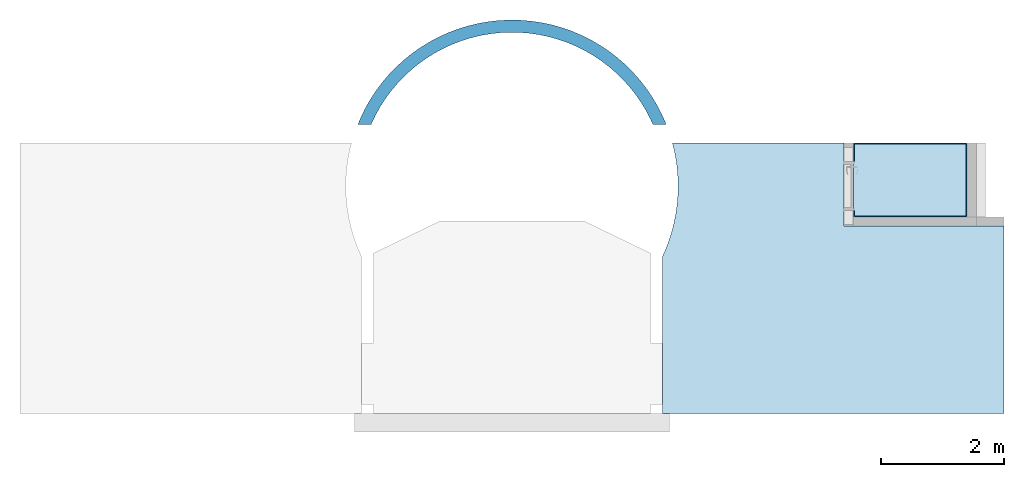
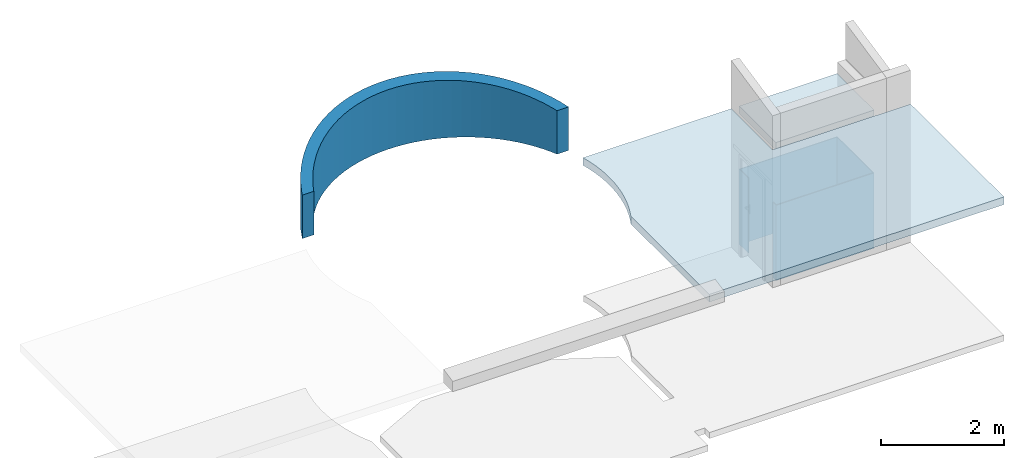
# One storey, part 3 of 5: 2 slabs, 1 wall.
"""IFC4 building model written with IfcOpenShell, lengths in millimetres."""

from ifc_helpers import new_model, entity, si_unit, converted_unit, derived_unit, direction, frame, origin_with_axes, place, context, subcontext, project, spatial, polygons, material, constituent, constituent_set, type_object, element, save


model = new_model("IFC4")

# Units and contexts
model_context = context("Model", 3, precision=0.01, world=origin_with_axes(), true_north=direction((0.0, 1.0)))
body_context = subcontext(model_context, "Body", "Model", "MODEL_VIEW")
ifc_project = project(units=[si_unit("LENGTHUNIT", "METRE", prefix="MILLI"), si_unit("AREAUNIT", "SQUARE_METRE"), si_unit("VOLUMEUNIT", "CUBIC_METRE"), converted_unit("PLANEANGLEUNIT", "DEGREE", entity("IfcPlaneAngleMeasure", 0.0174532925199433), si_unit("PLANEANGLEUNIT", "RADIAN"), dimensions=[0, 0, 0, 0, 0, 0, 0]), converted_unit("TIMEUNIT", "Year", entity("IfcTimeMeasure", 31557600.0), si_unit("TIMEUNIT", "SECOND"), dimensions=[0, 0, 1, 0, 0, 0, 0]), si_unit("MASSUNIT", "GRAM", prefix="KILO"), si_unit("THERMODYNAMICTEMPERATUREUNIT", "DEGREE_CELSIUS"), si_unit("LUMINOUSINTENSITYUNIT", "LUMEN"), si_unit("ENERGYUNIT", "JOULE", prefix="MEGA"), derived_unit("THERMALCONDUCTANCEUNIT", [(si_unit("POWERUNIT", "WATT"), 1), (si_unit("LENGTHUNIT", "METRE"), -1), (si_unit("THERMODYNAMICTEMPERATUREUNIT", "KELVIN"), -1)]), derived_unit("SPECIFICHEATCAPACITYUNIT", [(si_unit("ENERGYUNIT", "JOULE"), 1), (si_unit("MASSUNIT", "GRAM", prefix="KILO"), -1), (si_unit("THERMODYNAMICTEMPERATUREUNIT", "KELVIN"), -1)]), derived_unit("MASSDENSITYUNIT", [(si_unit("MASSUNIT", "GRAM", prefix="KILO"), 1), (si_unit("VOLUMEUNIT", "CUBIC_METRE"), -1)])], contexts=[model_context])

# Site, building, storey
site_placement = place(None, origin_with_axes())
site = spatial("IfcSite", under=ifc_project, at=site_placement, Name="Exteriér", CompositionType="ELEMENT")
building_placement = place(site_placement, origin_with_axes())
building = spatial("IfcBuilding", under=site, at=building_placement, Name="Univerzitní lezecké centrum", CompositionType="ELEMENT")
storey_placement = place(building_placement, frame((0.0, 0.0, 9600.000000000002), z_axis=(0.0, 0.0, 1.0), x_axis=(1.0, 0.0, 0.0)))
storey = spatial("IfcBuildingStorey", under=building, at=storey_placement, Name="4.NP", CompositionType="ELEMENT", Elevation=9600.0)

# Slabs
ifc_material_1 = material(Name="Keramická dlažba 20x40 - obklad")
slab_type_1 = type_object("IfcSlabType", Name="Keramická dlažba 20x40 - obklad 1500", PredefinedType="FLOOR")
slab_1_placement = place(storey_placement, frame((9849.851648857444, 4400.000011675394, 1500.0), z_axis=(0.0, 0.0, 1.0), x_axis=(1.0, 0.0, 0.0)))
element("IfcSlab", 1, at=slab_1_placement, inside=storey, type_object=slab_type_1, material=ifc_material_1, PredefinedType="FLOOR", context=body_context, shape_type="Tessellation", body=[
    polygons([(0.0, 0.0, 0.0), (0.0, 0.0, -1500.0), (-1849.739473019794, 0.0, -1500.0), (-1849.739473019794, 0.0, 0.0), (0.0, -1200.000011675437, 0.0), (0.0, -1200.000011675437, -1500.0), (-1849.739473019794, -1200.000011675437, -1500.0), (-1849.739473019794, -1100.000017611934, -1500.0), (-1834.739472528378, -1100.000017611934, -1500.0), (-1834.739472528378, -1185.000011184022, -1500.0), (-15.00000049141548, -1185.000011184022, -1500.0), (-15.00000049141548, -15.00000049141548, -1500.0), (-1834.739472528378, -15.00000049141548, -1500.0), (-1834.739472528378, -300.0000098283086, -1500.0), (-1849.739473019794, -300.0000098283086, -1500.0), (-1849.739473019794, -300.0000098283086, 0.0), (-1834.739472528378, -300.0000098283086, 0.0), (-1834.739472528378, -15.00000049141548, 0.0), (-15.00000049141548, -15.00000049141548, 0.0), (-15.00000049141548, -1185.000011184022, 0.0), (-1834.739472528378, -1185.000011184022, 0.0), (-1834.739472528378, -1100.000017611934, 0.0), (-1849.739473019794, -1100.000017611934, 0.0), (-1849.739473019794, -1200.000011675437, 0.0)], [[[1, 2, 3, 4]], [[5, 6, 2, 1]], [[3, 2, 6, 7, 8, 9, 10, 11, 12, 13, 14, 15]], [[4, 3, 15, 16]], [[5, 1, 4, 16, 17, 18, 19, 20, 21, 22, 23, 24]], [[24, 7, 6, 5]], [[23, 8, 7, 24]], [[22, 9, 8, 23]], [[21, 10, 9, 22]], [[20, 11, 10, 21]], [[19, 12, 11, 20]], [[18, 13, 12, 19]], [[17, 14, 13, 18]], [[16, 15, 14, 17]]], closed=True),
])
ifc_material_2 = material(Name="SDK - UA profil nosný 50")
ifc_constituent_1 = constituent(ifc_material_2, Name="SDK - UA profil nosný 50")
ifc_material_3 = material(Name="SDK - R-CD profil montážní")
ifc_constituent_2 = constituent(ifc_material_3, Name="SDK - R-CD profil montážní")
ifc_material_4 = material(Name="Sádrokarton - protipožární spodní")
ifc_constituent_3 = constituent(ifc_material_4, Name="Sádrokarton - protipožární spodní")
ifc_material_5 = material(Name="Sádrokarton - protipožární vrchní")
ifc_constituent_4 = constituent(ifc_material_5, Name="Sádrokarton - protipožární vrchní")
ifc_constituent_set_1 = constituent_set(constituents=[ifc_constituent_1, ifc_constituent_2, ifc_constituent_3, ifc_constituent_4], Name="!SDK - protipožární")
slab_type_2 = type_object("IfcSlabType", Name="!SDK - protipožární 152", PredefinedType="FLOOR")
slab_2_placement = place(storey_placement, frame((4899.98496212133, 0.0, 2752.0), z_axis=(0.0, 0.0, 1.0), x_axis=(1.0, 0.0, 0.0)))
element("IfcSlab", 2, at=slab_2_placement, inside=storey, type_object=slab_type_2, material=ifc_constituent_set_1, Name="Pdh02", PredefinedType="FLOOR", context=body_context, shape_type="Tessellation", body=[
    polygons([(4949.866686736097, 3049.999999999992, -99.99999999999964), (4949.866686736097, 3049.999999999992, 0.0), (5549.866686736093, 3049.999999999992, 0.0), (5549.866686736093, 3049.999999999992, -99.99999999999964), (3100.127204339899, 3049.999999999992, 0.0), (3100.127204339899, 3049.999999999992, -99.99999999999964), (2950.127204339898, 3049.999999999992, 0.0), (2950.127204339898, 4399.999999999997, 0.0), (157.8293132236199, 4399.999999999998, 0.0), (193.8026899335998, 4254.867432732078, 0.0), (222.7123290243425, 4092.667690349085, 0.0), (241.679854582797, 3929.007198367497, 0.0), (250.6347061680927, 3764.49478456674, 0.0), (249.5435711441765, 3599.742445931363, 0.0), (238.4105086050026, 3435.363071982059, 0.0), (217.2769342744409, 3271.968164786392, 0.0), (186.2214664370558, 3110.165564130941, 0.0), (145.3596334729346, 2950.557186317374, 0.0), (94.84344408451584, 2793.736784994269, 0.0), (34.86082181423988, 2640.287742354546, 0.0), (0.2478638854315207, 2565.534320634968, 0.0), (0.0, 0.0, 0.0), (5549.866686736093, 0.0, 0.0), (5549.866686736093, 0.0, -99.99999999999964), (0.0, 0.0, -99.99999999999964), (0.2478638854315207, 2565.534320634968, -99.99999999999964), (34.86082181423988, 2640.287742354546, -99.99999999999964), (94.84344408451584, 2793.736784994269, -99.99999999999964), (145.3596334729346, 2950.557186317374, -99.99999999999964), (186.2214664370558, 3110.165564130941, -99.99999999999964), (217.2769342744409, 3271.968164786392, -99.99999999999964), (238.4105086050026, 3435.363071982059, -99.99999999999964), (249.5435711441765, 3599.742445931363, -99.99999999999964), (250.6347061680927, 3764.49478456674, -99.99999999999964), (241.679854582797, 3929.007198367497, -99.99999999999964), (222.7123290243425, 4092.667690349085, -99.99999999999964), (193.8026899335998, 4254.867432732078, -99.99999999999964), (157.8293132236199, 4399.999999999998, -99.99999999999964), (2950.127204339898, 4399.999999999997, -99.99999999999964), (2950.127204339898, 3049.999999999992, -99.99999999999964)], [[[1, 2, 3, 4]], [[5, 2, 1, 6]], [[2, 5, 7, 8, 9, 10, 11, 12, 13, 14, 15, 16, 17, 18, 19, 20, 21, 22, 23, 3]], [[24, 4, 3, 23]], [[6, 1, 4, 24, 25, 26, 27, 28, 29, 30, 31, 32, 33, 34, 35, 36, 37, 38, 39, 40]], [[5, 6, 40, 7]], [[39, 8, 7, 40]], [[8, 39, 38, 9]], [[38, 37, 10, 9]], [[37, 36, 11, 10]], [[36, 35, 12, 11]], [[35, 34, 13, 12]], [[34, 33, 14, 13]], [[33, 32, 15, 14]], [[32, 31, 16, 15]], [[31, 30, 17, 16]], [[30, 29, 18, 17]], [[29, 28, 19, 18]], [[28, 27, 20, 19]], [[27, 26, 21, 20]], [[26, 25, 22, 21]], [[25, 24, 23, 22]]], closed=True),
    polygons([(3100.127204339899, 3199.999999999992, 0.0), (4949.866686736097, 3199.999999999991, 0.0), (4949.866686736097, 4399.999999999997, 0.0), (3100.127204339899, 4399.999999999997, 0.0), (4949.866686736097, 3199.999999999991, -99.99999999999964), (3100.127204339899, 3199.999999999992, -99.99999999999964), (4949.866686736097, 4399.999999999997, -99.99999999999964), (3100.127204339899, 4399.999999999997, -99.99999999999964)], [[[1, 2, 3, 4]], [[5, 2, 1, 6]], [[2, 5, 7, 3]], [[8, 4, 3, 7]], [[6, 1, 4, 8]], [[5, 6, 8, 7]]], closed=True),
    polygons([(4949.866686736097, 3049.999999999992, -126.9999999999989), (4949.866686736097, 3049.999999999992, -99.99999999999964), (5549.866686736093, 3049.999999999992, -99.99999999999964), (5549.866686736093, 3049.999999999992, -126.9999999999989), (3100.127204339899, 3049.999999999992, -99.99999999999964), (3100.127204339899, 3049.999999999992, -126.9999999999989), (2950.127204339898, 3049.999999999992, -99.99999999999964), (2950.127204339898, 4399.999999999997, -99.99999999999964), (157.8293132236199, 4399.999999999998, -99.99999999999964), (193.8026899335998, 4254.867432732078, -99.99999999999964), (222.7123290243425, 4092.667690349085, -99.99999999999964), (241.679854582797, 3929.007198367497, -99.99999999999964), (250.6347061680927, 3764.49478456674, -99.99999999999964), (249.5435711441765, 3599.742445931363, -99.99999999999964), (238.4105086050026, 3435.363071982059, -99.99999999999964), (217.2769342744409, 3271.968164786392, -99.99999999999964), (186.2214664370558, 3110.165564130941, -99.99999999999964), (145.3596334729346, 2950.557186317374, -99.99999999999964), (94.84344408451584, 2793.736784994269, -99.99999999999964), (34.86082181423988, 2640.287742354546, -99.99999999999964), (0.2478638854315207, 2565.534320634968, -99.99999999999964), (0.0, 0.0, -99.99999999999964), (5549.866686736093, 0.0, -99.99999999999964), (5549.866686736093, 0.0, -126.9999999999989), (0.0, 0.0, -126.9999999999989), (0.2478638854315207, 2565.534320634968, -126.9999999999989), (34.86082181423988, 2640.287742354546, -126.9999999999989), (94.84344408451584, 2793.736784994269, -126.9999999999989), (145.3596334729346, 2950.557186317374, -126.9999999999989), (186.2214664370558, 3110.165564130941, -126.9999999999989), (217.2769342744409, 3271.968164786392, -126.9999999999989), (238.4105086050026, 3435.363071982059, -126.9999999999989), (249.5435711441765, 3599.742445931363, -126.9999999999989), (250.6347061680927, 3764.49478456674, -126.9999999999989), (241.679854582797, 3929.007198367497, -126.9999999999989), (222.7123290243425, 4092.667690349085, -126.9999999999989), (193.8026899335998, 4254.867432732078, -126.9999999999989), (157.8293132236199, 4399.999999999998, -126.9999999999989), (2950.127204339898, 4399.999999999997, -126.9999999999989), (2950.127204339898, 3049.999999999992, -126.9999999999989)], [[[1, 2, 3, 4]], [[5, 2, 1, 6]], [[2, 5, 7, 8, 9, 10, 11, 12, 13, 14, 15, 16, 17, 18, 19, 20, 21, 22, 23, 3]], [[24, 4, 3, 23]], [[6, 1, 4, 24, 25, 26, 27, 28, 29, 30, 31, 32, 33, 34, 35, 36, 37, 38, 39, 40]], [[5, 6, 40, 7]], [[39, 8, 7, 40]], [[8, 39, 38, 9]], [[38, 37, 10, 9]], [[37, 36, 11, 10]], [[36, 35, 12, 11]], [[35, 34, 13, 12]], [[34, 33, 14, 13]], [[33, 32, 15, 14]], [[32, 31, 16, 15]], [[31, 30, 17, 16]], [[30, 29, 18, 17]], [[29, 28, 19, 18]], [[28, 27, 20, 19]], [[27, 26, 21, 20]], [[26, 25, 22, 21]], [[25, 24, 23, 22]]], closed=True),
    polygons([(3100.127204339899, 3199.999999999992, -99.99999999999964), (4949.866686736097, 3199.999999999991, -99.99999999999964), (4949.866686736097, 4399.999999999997, -99.99999999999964), (3100.127204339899, 4399.999999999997, -99.99999999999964), (4949.866686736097, 3199.999999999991, -126.9999999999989), (3100.127204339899, 3199.999999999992, -126.9999999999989), (4949.866686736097, 4399.999999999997, -126.9999999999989), (3100.127204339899, 4399.999999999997, -126.9999999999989)], [[[1, 2, 3, 4]], [[5, 2, 1, 6]], [[2, 5, 7, 3]], [[8, 4, 3, 7]], [[6, 1, 4, 8]], [[5, 6, 8, 7]]], closed=True),
    polygons([(4949.866686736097, 3049.999999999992, -139.0000000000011), (4949.866686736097, 3049.999999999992, -127.0000000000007), (5549.866686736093, 3049.999999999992, -127.0000000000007), (5549.866686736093, 3049.999999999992, -139.0000000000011), (3100.127204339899, 3049.999999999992, -127.0000000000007), (3100.127204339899, 3049.999999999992, -139.0000000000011), (2950.127204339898, 3049.999999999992, -127.0000000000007), (2950.127204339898, 4399.999999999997, -127.0000000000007), (157.8293132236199, 4399.999999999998, -127.0000000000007), (193.8026899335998, 4254.867432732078, -127.0000000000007), (222.7123290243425, 4092.667690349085, -127.0000000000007), (241.679854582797, 3929.007198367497, -127.0000000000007), (250.6347061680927, 3764.49478456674, -127.0000000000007), (249.5435711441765, 3599.742445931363, -127.0000000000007), (238.4105086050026, 3435.363071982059, -127.0000000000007), (217.2769342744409, 3271.968164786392, -127.0000000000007), (186.2214664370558, 3110.165564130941, -127.0000000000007), (145.3596334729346, 2950.557186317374, -127.0000000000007), (94.84344408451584, 2793.736784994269, -127.0000000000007), (34.86082181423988, 2640.287742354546, -127.0000000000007), (0.2478638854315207, 2565.534320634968, -127.0000000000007), (0.0, 0.0, -127.0000000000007), (5549.866686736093, 0.0, -127.0000000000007), (5549.866686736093, 0.0, -139.0000000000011), (0.0, 0.0, -139.0000000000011), (0.2478638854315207, 2565.534320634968, -139.0000000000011), (34.86082181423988, 2640.287742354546, -139.0000000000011), (94.84344408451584, 2793.736784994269, -139.0000000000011), (145.3596334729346, 2950.557186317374, -139.0000000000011), (186.2214664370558, 3110.165564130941, -139.0000000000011), (217.2769342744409, 3271.968164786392, -139.0000000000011), (238.4105086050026, 3435.363071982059, -139.0000000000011), (249.5435711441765, 3599.742445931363, -139.0000000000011), (250.6347061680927, 3764.49478456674, -139.0000000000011), (241.679854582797, 3929.007198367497, -139.0000000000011), (222.7123290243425, 4092.667690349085, -139.0000000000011), (193.8026899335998, 4254.867432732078, -139.0000000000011), (157.8293132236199, 4399.999999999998, -139.0000000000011), (2950.127204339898, 4399.999999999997, -139.0000000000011), (2950.127204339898, 3049.999999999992, -139.0000000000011)], [[[1, 2, 3, 4]], [[5, 2, 1, 6]], [[2, 5, 7, 8, 9, 10, 11, 12, 13, 14, 15, 16, 17, 18, 19, 20, 21, 22, 23, 3]], [[24, 4, 3, 23]], [[6, 1, 4, 24, 25, 26, 27, 28, 29, 30, 31, 32, 33, 34, 35, 36, 37, 38, 39, 40]], [[5, 6, 40, 7]], [[39, 8, 7, 40]], [[8, 39, 38, 9]], [[38, 37, 10, 9]], [[37, 36, 11, 10]], [[36, 35, 12, 11]], [[35, 34, 13, 12]], [[34, 33, 14, 13]], [[33, 32, 15, 14]], [[32, 31, 16, 15]], [[31, 30, 17, 16]], [[30, 29, 18, 17]], [[29, 28, 19, 18]], [[28, 27, 20, 19]], [[27, 26, 21, 20]], [[26, 25, 22, 21]], [[25, 24, 23, 22]]], closed=True),
    polygons([(3100.127204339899, 3199.999999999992, -127.0000000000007), (4949.866686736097, 3199.999999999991, -127.0000000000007), (4949.866686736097, 4399.999999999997, -127.0000000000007), (3100.127204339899, 4399.999999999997, -127.0000000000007), (4949.866686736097, 3199.999999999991, -139.0000000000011), (3100.127204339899, 3199.999999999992, -139.0000000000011), (4949.866686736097, 4399.999999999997, -139.0000000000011), (3100.127204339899, 4399.999999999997, -139.0000000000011)], [[[1, 2, 3, 4]], [[5, 2, 1, 6]], [[2, 5, 7, 3]], [[8, 4, 3, 7]], [[6, 1, 4, 8]], [[5, 6, 8, 7]]], closed=True),
    polygons([(4949.866686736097, 3049.999999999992, -151.9999999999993), (4949.866686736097, 3049.999999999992, -138.9999999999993), (5549.866686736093, 3049.999999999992, -138.9999999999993), (5549.866686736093, 3049.999999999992, -151.9999999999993), (3100.127204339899, 3049.999999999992, -138.9999999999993), (3100.127204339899, 3049.999999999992, -151.9999999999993), (2950.127204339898, 3049.999999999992, -138.9999999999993), (2950.127204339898, 4399.999999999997, -138.9999999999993), (157.8293132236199, 4399.999999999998, -138.9999999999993), (193.8026899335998, 4254.867432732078, -138.9999999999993), (222.7123290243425, 4092.667690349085, -138.9999999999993), (241.679854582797, 3929.007198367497, -138.9999999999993), (250.6347061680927, 3764.49478456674, -138.9999999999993), (249.5435711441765, 3599.742445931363, -138.9999999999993), (238.4105086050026, 3435.363071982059, -138.9999999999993), (217.2769342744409, 3271.968164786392, -138.9999999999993), (186.2214664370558, 3110.165564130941, -138.9999999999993), (145.3596334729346, 2950.557186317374, -138.9999999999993), (94.84344408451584, 2793.736784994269, -138.9999999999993), (34.86082181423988, 2640.287742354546, -138.9999999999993), (0.2478638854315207, 2565.534320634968, -138.9999999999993), (0.0, 0.0, -138.9999999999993), (5549.866686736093, 0.0, -138.9999999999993), (5549.866686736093, 0.0, -151.9999999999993), (0.0, 0.0, -151.9999999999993), (0.2478638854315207, 2565.534320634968, -151.9999999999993), (34.86082181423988, 2640.287742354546, -151.9999999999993), (94.84344408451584, 2793.736784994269, -151.9999999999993), (145.3596334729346, 2950.557186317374, -151.9999999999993), (186.2214664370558, 3110.165564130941, -151.9999999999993), (217.2769342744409, 3271.968164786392, -151.9999999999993), (238.4105086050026, 3435.363071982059, -151.9999999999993), (249.5435711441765, 3599.742445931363, -151.9999999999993), (250.6347061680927, 3764.49478456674, -151.9999999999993), (241.679854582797, 3929.007198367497, -151.9999999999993), (222.7123290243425, 4092.667690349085, -151.9999999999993), (193.8026899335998, 4254.867432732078, -151.9999999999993), (157.8293132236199, 4399.999999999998, -151.9999999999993), (2950.127204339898, 4399.999999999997, -151.9999999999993), (2950.127204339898, 3049.999999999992, -151.9999999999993)], [[[1, 2, 3, 4]], [[5, 2, 1, 6]], [[2, 5, 7, 8, 9, 10, 11, 12, 13, 14, 15, 16, 17, 18, 19, 20, 21, 22, 23, 3]], [[23, 24, 4, 3]], [[6, 1, 4, 24, 25, 26, 27, 28, 29, 30, 31, 32, 33, 34, 35, 36, 37, 38, 39, 40]], [[5, 6, 40, 7]], [[39, 8, 7, 40]], [[8, 39, 38, 9]], [[9, 38, 37, 10]], [[10, 37, 36, 11]], [[11, 36, 35, 12]], [[12, 35, 34, 13]], [[13, 34, 33, 14]], [[14, 33, 32, 15]], [[15, 32, 31, 16]], [[16, 31, 30, 17]], [[17, 30, 29, 18]], [[18, 29, 28, 19]], [[19, 28, 27, 20]], [[20, 27, 26, 21]], [[21, 26, 25, 22]], [[22, 25, 24, 23]]], closed=True),
    polygons([(3100.127204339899, 3199.999999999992, -138.9999999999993), (4949.866686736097, 3199.999999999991, -138.9999999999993), (4949.866686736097, 4399.999999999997, -138.9999999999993), (3100.127204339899, 4399.999999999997, -138.9999999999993), (4949.866686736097, 3199.999999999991, -151.9999999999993), (3100.127204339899, 3199.999999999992, -151.9999999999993), (4949.866686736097, 4399.999999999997, -151.9999999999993), (3100.127204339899, 4399.999999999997, -151.9999999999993)], [[[1, 2, 3, 4]], [[5, 2, 1, 6]], [[2, 5, 7, 3]], [[8, 4, 3, 7]], [[6, 1, 4, 8]], [[5, 6, 8, 7]]], closed=True),
])

# Wall
ifc_material_6 = material(Name="Pórobetonové tvárnice - nenosné")
ifc_constituent_5 = constituent(ifc_material_6, Name="Pórobetonové tvárnice - nenosné")
ifc_constituent_set_2 = constituent_set(constituents=[ifc_constituent_5], Name="!Vnitřní pŕobetonová stěna 200 mm - nenosná")
wall_type = type_object("IfcWallType", Name="!Vnitřní pŕobetonová stěna 200 mm - nenosná 200", PredefinedType="NOTDEFINED")
wall_placement = place(storey_placement, frame((4741.13984060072, 4699.999999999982, 2750.0), z_axis=(0.0, 0.0, 1.0), x_axis=(-0.4000000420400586, 0.9165151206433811, 0.0)))
element("IfcWall", 3, at=wall_placement, inside=storey, type_object=wall_type, material=ifc_constituent_set_2, Name="St09", PredefinedType="NOTDEFINED", context=body_context, shape_type="Tessellation", body=[
    polygons([(-85.70857592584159, -199.9999999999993, 866.9786910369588), (-87.24456409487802, -199.9023850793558, 866.6711637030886), (-87.24456435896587, -199.9023850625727, 0.0), (-85.70857592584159, -199.9999999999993, 0.0), (0.0, -6.457208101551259e-07, 866.6711637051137), (0.0, -199.9999999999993, 883.6756903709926), (85.70857592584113, -199.9999999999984, 900.3726897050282), (256.7806095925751, -189.1280523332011, 932.775093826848), (426.8186783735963, -167.4279344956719, 964.0554303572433), (595.1380989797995, -134.9870252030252, 994.0877444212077), (761.0611085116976, -91.93595254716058, 1022.751106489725), (923.9195935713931, -38.44806800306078, 1049.930099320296), (1083.057780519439, 25.261251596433, 1075.515282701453), (1237.834876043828, 98.93547130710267, 1099.403634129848), (1387.627647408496, 182.277931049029, 1121.498963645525), (1531.832931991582, 274.9530401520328, 1141.712301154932), (1669.870066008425, 376.5876286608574, 1159.962254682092), (1801.183222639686, 486.7724499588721, 1176.17533810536), (1925.243650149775, 605.0638286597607, 1190.286267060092), (2041.551800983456, 730.985447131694, 1202.238221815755), (2149.639343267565, 864.0302634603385, 1211.983076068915), (2249.071046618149, 1003.662553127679, 1219.481590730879), (2339.446534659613, 1149.320066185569, 1224.703571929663), (2420.401897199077, 1300.416291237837, 1227.627992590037), (2491.611155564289, 1456.342817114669, 1228.243077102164), (2552.787575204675, 1616.471782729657, 1226.5463487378), (2603.684820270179, 1780.158405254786, 1222.544639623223), (2644.097945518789, 1946.743576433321, 1216.254063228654), (2673.864221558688, 2115.556516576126, 1207.699949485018), (2692.863790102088, 2285.917475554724, 1196.916742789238), (2701.020146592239, 2457.140469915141, 1183.947863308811), (2698.300448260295, 2628.536045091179, 1168.845532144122), (2684.715646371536, 2799.414051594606, 1151.670561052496), (2660.320442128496, 2969.08642400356, 1132.49210758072), (2625.213066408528, 3136.869951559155, 1111.38739659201), (2579.534884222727, 3302.089029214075, 1088.441409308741), (2523.469825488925, 3464.07837805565, 1063.746541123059), (2457.24364441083, 3622.185724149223, 1037.402229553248), (2381.123010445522, 3775.774425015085, 1009.514553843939), (2295.414434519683, 3924.226033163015, 980.1958078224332), (2200.463034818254, 4066.942786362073, 949.564047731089), (2096.651147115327, 4203.35001461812, 917.7426168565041), (1979.672980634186, 4336.000074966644, 883.6756903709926), (1919.467881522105, 4398.05287965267, 866.6711637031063), (1833.030546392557, 4200.000088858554, 866.6711637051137), (1941.343663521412, 4077.175957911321, 898.2146142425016), (2037.465782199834, 3950.872968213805, 927.6789022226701), (2125.383745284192, 3818.727825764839, 956.0416431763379), (2204.743538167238, 3681.272632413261, 983.1886303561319), (2275.22560697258, 3539.060871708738, 1009.010552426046), (2336.546145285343, 3392.665180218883, 1033.403433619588), (2388.458236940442, 3242.675041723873, 1056.269052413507), (2430.752850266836, 3089.694413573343, 1077.515337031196), (2463.259679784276, 2934.339294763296, 1097.056736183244), (2485.847831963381, 2777.235245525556, 1114.814563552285), (2498.426352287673, 2619.014868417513, 1130.717314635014), (2500.944591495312, 2460.315261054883, 1144.700954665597), (2493.392409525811, 2301.775450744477, 1156.709176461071), (2475.800216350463, 2144.033821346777, 1166.693627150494), (2448.238849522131, 1987.725542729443, 1174.614102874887), (2410.81928893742, 1833.480013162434, 1180.438710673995), (2363.692209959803, 1681.918324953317, 1184.143996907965), (2307.047376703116, 1533.650763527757, 1185.715041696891), (2241.112877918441, 1389.274350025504, 1185.145518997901), (2166.154208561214, 1249.370437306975, 1182.437722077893), (2082.473200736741, 1114.502369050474, 1177.60255427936), (1990.40680832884, 985.2132113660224, 1170.659485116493), (1890.325750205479, 862.0235660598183, 1161.636471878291), (1782.633017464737, 745.4294743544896, 1150.569847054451), (1667.762250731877, 635.9004195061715, 1137.504172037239), (1546.175994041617, 533.8774363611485, 1122.492057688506), (1418.363832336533, 439.7713354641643, 1105.593952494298), (1284.840420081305, 353.9610488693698, 1086.87789916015), (1146.14340893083, 276.7921043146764, 1066.41926062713), (1002.831282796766, 208.5752339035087, 1044.300416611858), (855.4811090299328, 149.5851228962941, 1020.610431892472), (704.6862147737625, 100.0593036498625, 995.4446976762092), (551.0537978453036, 60.19719915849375, 968.9045474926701), (395.202481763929, 30.15932004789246, 941.0968491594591), (237.7598247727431, 10.06661825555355, 912.133574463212), (79.35979288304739, 0.0, 882.1313482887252), (0.0, 0.0, 0.0), (-85.58475170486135, -196.0992769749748, 0.0), (0.0, -199.9999999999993, 0.0), (85.70857592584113, -199.9999999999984, 0.0), (256.7806095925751, -189.1280523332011, 0.0), (426.8186783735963, -167.4279344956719, 0.0), (595.1380989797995, -134.9870252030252, 0.0), (761.0611085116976, -91.93595254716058, 0.0), (923.9195935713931, -38.44806800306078, 0.0), (1083.057780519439, 25.261251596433, 0.0), (1237.834876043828, 98.93547130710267, 0.0), (1387.627647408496, 182.277931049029, 0.0), (1531.832931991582, 274.9530401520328, 0.0), (1669.870066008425, 376.5876286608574, 0.0), (1801.183222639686, 486.7724499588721, 0.0), (1925.243650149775, 605.0638286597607, 0.0), (2041.551800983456, 730.985447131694, 0.0), (2149.639343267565, 864.0302634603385, 0.0), (2249.071046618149, 1003.662553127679, 0.0), (2339.446534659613, 1149.320066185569, 0.0), (2420.401897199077, 1300.416291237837, 0.0), (2491.611155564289, 1456.342817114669, 0.0), (2552.787575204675, 1616.471782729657, 0.0), (2603.684820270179, 1780.158405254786, 0.0), (2644.097945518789, 1946.743576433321, 0.0), (2673.864221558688, 2115.556516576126, 0.0), (2692.863790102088, 2285.917475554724, 0.0), (2701.020146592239, 2457.140469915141, 0.0), (2698.300448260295, 2628.536045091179, 0.0), (2684.715646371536, 2799.414051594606, 0.0), (2660.320442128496, 2969.08642400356, 0.0), (2625.213066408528, 3136.869951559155, 0.0), (2579.534884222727, 3302.089029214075, 0.0), (2523.469825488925, 3464.07837805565, 0.0), (2457.24364441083, 3622.185724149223, 0.0), (2381.123010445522, 3775.774425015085, 0.0), (2295.414434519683, 3924.226033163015, 0.0), (2200.463034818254, 4066.942786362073, 0.0), (2096.651147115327, 4203.35001461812, 0.0), (1979.672980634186, 4336.000074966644, 0.0), (1919.467881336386, 4398.052879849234, 0.0), (1833.030545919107, 4200.000088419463, 0.0), (1941.343663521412, 4077.175957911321, 0.0), (2037.465782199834, 3950.872968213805, 0.0), (2125.383745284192, 3818.727825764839, 0.0), (2204.743538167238, 3681.272632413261, 0.0), (2275.22560697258, 3539.060871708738, 0.0), (2336.546145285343, 3392.665180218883, 0.0), (2388.458236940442, 3242.675041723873, 0.0), (2430.752850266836, 3089.694413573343, 0.0), (2463.259679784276, 2934.339294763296, 0.0), (2485.847831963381, 2777.235245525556, 0.0), (2498.426352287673, 2619.014868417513, 0.0), (2500.944591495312, 2460.315261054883, 0.0), (2493.392409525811, 2301.775450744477, 0.0), (2475.800216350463, 2144.033821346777, 0.0), (2448.238849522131, 1987.725542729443, 0.0), (2410.81928893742, 1833.480013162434, 0.0), (2363.692209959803, 1681.918324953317, 0.0), (2307.047376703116, 1533.650763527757, 0.0), (2241.112877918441, 1389.274350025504, 0.0), (2166.154208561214, 1249.370437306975, 0.0), (2082.473200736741, 1114.502369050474, 0.0), (1990.40680832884, 985.2132113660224, 0.0), (1890.325750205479, 862.0235660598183, 0.0), (1782.633017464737, 745.4294743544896, 0.0), (1667.762250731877, 635.9004195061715, 0.0), (1546.175994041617, 533.8774363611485, 0.0), (1418.363832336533, 439.7713354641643, 0.0), (1284.840420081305, 353.9610488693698, 0.0), (1146.14340893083, 276.7921043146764, 0.0), (1002.831282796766, 208.5752339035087, 0.0), (855.4811090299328, 149.5851228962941, 0.0), (704.6862147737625, 100.0593036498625, 0.0), (551.0537978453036, 60.19719915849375, 0.0), (395.202481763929, 30.15932004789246, 0.0), (237.7598247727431, 10.06661825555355, 0.0), (79.35979288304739, 0.0, 0.0)], [[[1, 2, 3, 4]], [[5, 2, 1, 6, 7, 8, 9, 10, 11, 12, 13, 14, 15, 16, 17, 18, 19, 20, 21, 22, 23, 24, 25, 26, 27, 28, 29, 30, 31, 32, 33, 34, 35, 36, 37, 38, 39, 40, 41, 42, 43, 44, 45, 46, 47, 48, 49, 50, 51, 52, 53, 54, 55, 56, 57, 58, 59, 60, 61, 62, 63, 64, 65, 66, 67, 68, 69, 70, 71, 72, 73, 74, 75, 76, 77, 78, 79, 80, 81]], [[2, 5, 82, 83, 3]], [[83, 4, 3]], [[6, 1, 4, 84]], [[7, 6, 84, 85]], [[8, 7, 85, 86]], [[9, 8, 86, 87]], [[10, 9, 87, 88]], [[11, 10, 88, 89]], [[12, 11, 89, 90]], [[13, 12, 90, 91]], [[14, 13, 91, 92]], [[15, 14, 92, 93]], [[16, 15, 93, 94]], [[17, 16, 94, 95]], [[18, 17, 95, 96]], [[19, 18, 96, 97]], [[20, 19, 97, 98]], [[21, 20, 98, 99]], [[22, 21, 99, 100]], [[23, 22, 100, 101]], [[24, 23, 101, 102]], [[25, 24, 102, 103]], [[26, 25, 103, 104]], [[27, 26, 104, 105]], [[28, 27, 105, 106]], [[29, 28, 106, 107]], [[30, 29, 107, 108]], [[31, 30, 108, 109]], [[32, 31, 109, 110]], [[33, 32, 110, 111]], [[34, 33, 111, 112]], [[35, 34, 112, 113]], [[36, 35, 113, 114]], [[37, 36, 114, 115]], [[38, 37, 115, 116]], [[39, 38, 116, 117]], [[40, 39, 117, 118]], [[41, 40, 118, 119]], [[42, 41, 119, 120]], [[43, 42, 120, 121]], [[44, 43, 121, 122]], [[45, 44, 122, 123]], [[46, 45, 123, 124]], [[47, 46, 124, 125]], [[48, 47, 125, 126]], [[49, 48, 126, 127]], [[50, 49, 127, 128]], [[51, 50, 128, 129]], [[52, 51, 129, 130]], [[53, 52, 130, 131]], [[54, 53, 131, 132]], [[55, 54, 132, 133]], [[56, 55, 133, 134]], [[57, 56, 134, 135]], [[58, 57, 135, 136]], [[59, 58, 136, 137]], [[60, 59, 137, 138]], [[61, 60, 138, 139]], [[62, 61, 139, 140]], [[63, 62, 140, 141]], [[64, 63, 141, 142]], [[65, 64, 142, 143]], [[66, 65, 143, 144]], [[67, 66, 144, 145]], [[68, 67, 145, 146]], [[69, 68, 146, 147]], [[70, 69, 147, 148]], [[71, 70, 148, 149]], [[72, 71, 149, 150]], [[73, 72, 150, 151]], [[74, 73, 151, 152]], [[75, 74, 152, 153]], [[76, 75, 153, 154]], [[77, 76, 154, 155]], [[78, 77, 155, 156]], [[79, 78, 156, 157]], [[80, 79, 157, 158]], [[81, 80, 158, 159]], [[5, 81, 159, 82]], [[84, 4, 83, 82]], [[159, 85, 84, 82]], [[158, 86, 85, 159]], [[157, 87, 86, 158]], [[156, 88, 87, 157]], [[155, 89, 88, 156]], [[154, 90, 89, 155]], [[153, 91, 90, 154]], [[152, 92, 91, 153]], [[151, 93, 92, 152]], [[150, 94, 93, 151]], [[149, 95, 94, 150]], [[148, 96, 95, 149]], [[147, 97, 96, 148]], [[146, 98, 97, 147]], [[145, 99, 98, 146]], [[144, 100, 99, 145]], [[143, 101, 100, 144]], [[142, 102, 101, 143]], [[141, 103, 102, 142]], [[140, 104, 103, 141]], [[139, 105, 104, 140]], [[138, 106, 105, 139]], [[137, 107, 106, 138]], [[136, 108, 107, 137]], [[135, 109, 108, 136]], [[134, 110, 109, 135]], [[133, 111, 110, 134]], [[132, 112, 111, 133]], [[131, 113, 112, 132]], [[130, 114, 113, 131]], [[129, 115, 114, 130]], [[128, 116, 115, 129]], [[127, 117, 116, 128]], [[126, 118, 117, 127]], [[125, 119, 118, 126]], [[124, 120, 119, 125]], [[123, 121, 120, 124]], [[122, 121, 123]]], closed=True),
])

save(model, "model.ifc")
